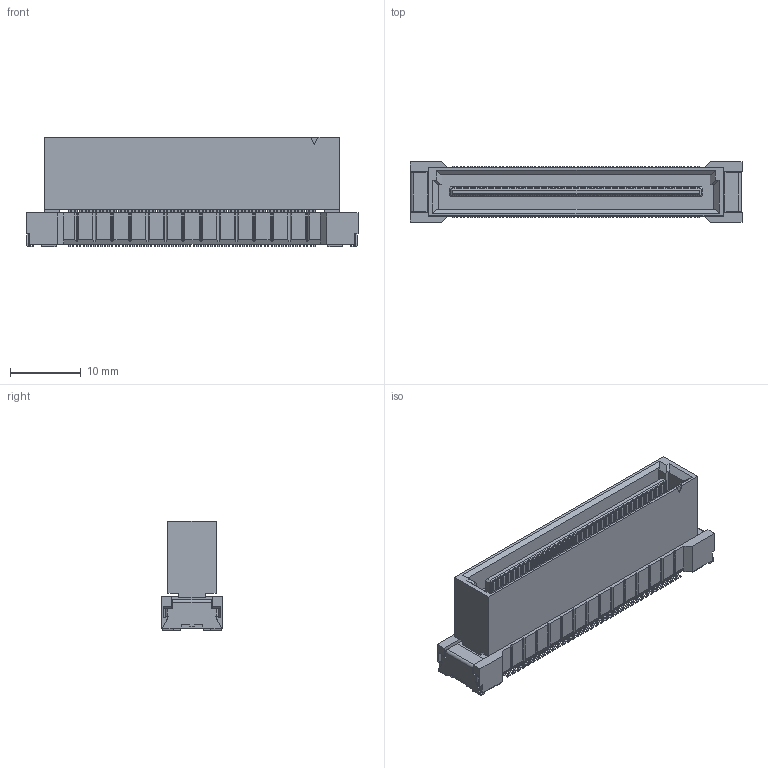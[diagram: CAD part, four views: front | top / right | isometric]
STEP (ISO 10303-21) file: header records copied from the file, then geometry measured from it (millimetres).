
FILE_DESCRIPTION(('Creo Elements/Direct Modeling STEP Export'),'2;1');
FILE_NAME('P3E104_DT00-140FS-10-T.stp','2022-02-25T17:35:24',(''),(''),'Creo Elements/Direct Modeling STEP processor for AP214 (Solid Model)','Creo Elements/Direct Modeling 20.4A 18-Oct-2021 (C) Parametric Technology GmbH','');
FILE_SCHEMA(('AUTOMOTIVE_DESIGN { 1 0 10303 214 1 1 1 1 }'));
Products named in the file (2): P3E104_DT00-140FS-10-T
Assembly tree (1 placements, depth 2):
  P3E104_DT00-140FS-10-T
    P3E104_DT00-140FS-10-T
Bounding box: 46.8 x 8.5 x 15.5 mm (x, y, z)
Volume: 3750.1 mm3; surface area: 3657.9 mm2
Topology: 1 solids, 1 shells, 3865 faces, 10853 edges, 7130 vertices
Faces by surface type: plane 3559, cylinder 306
Entity records: 120152 total; most frequent: ORIENTED_EDGE 21706, CARTESIAN_POINT 21256, DIRECTION 18457, EDGE_CURVE 10853, VECTOR 9795, LINE 9795, VERTEX_POINT 7130, AXIS2_PLACEMENT_3D 4331
